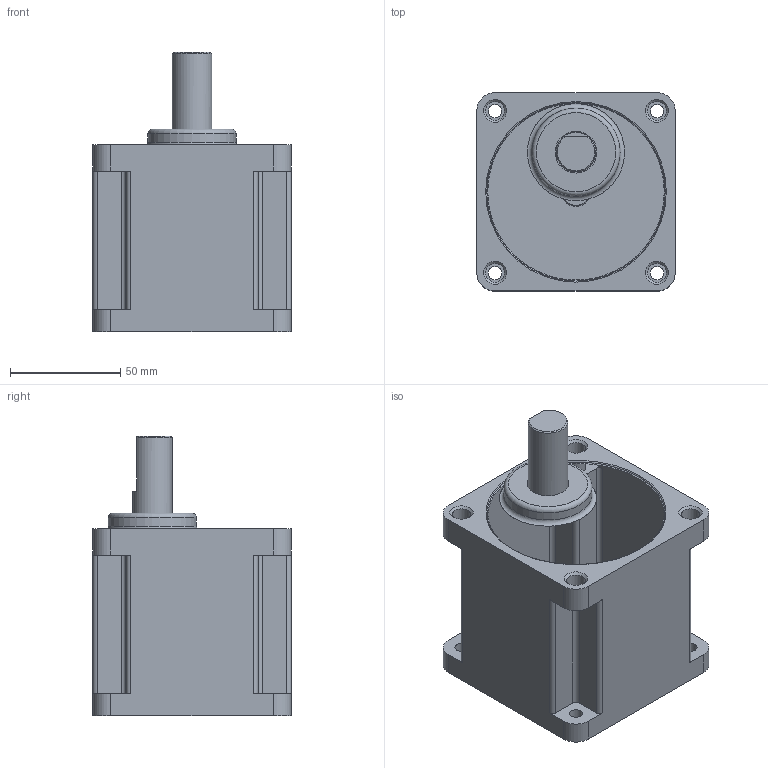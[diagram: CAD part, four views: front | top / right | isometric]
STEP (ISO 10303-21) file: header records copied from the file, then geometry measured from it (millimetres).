
FILE_DESCRIPTION((''),'2;1');
FILE_NAME('D:\김성묵\업무폴더\개발 파일\프로젝트 개발 AB등급\AC표준형 개발자료\90각 이하 표준형 개발\도면작성 자료\3D 도면\GEAR HEAD\S9DD3B~200B.stp','2015-03-24T18:57:57',('smkim'),(''),'Autodesk Inventor 2012','Autodesk Inventor 2012','');
FILE_SCHEMA(('AUTOMOTIVE_DESIGN { 1 0 10303 214 1 1 1 1 }'));
Length unit declared in the file: millimetre
Products named in the file (1): S9DD3B~200B
Bounding box: 90 x 90 x 127 mm (x, y, z)
Volume: 619317.8 mm3; surface area: 53819.9 mm2
Topology: 1 solids, 1 shells, 74 faces, 191 edges, 124 vertices
Faces by surface type: cylinder 33, plane 30, cone 7, torus 4
Full cylindrical faces by diameter (mm): 6 x4, 8.5 x4, 12 x1, 18 x1, 19 x1, 40 x1, 83 x1
Entity records: 2188 total; most frequent: DIRECTION 392, CARTESIAN_POINT 365, ORIENTED_EDGE 330, EDGE_CURVE 165, AXIS2_PLACEMENT_3D 154, VERTEX_POINT 121, EDGE_LOOP 118, VECTOR 84
